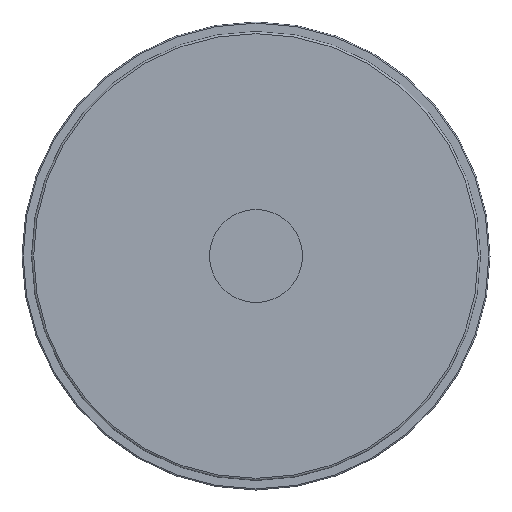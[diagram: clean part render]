
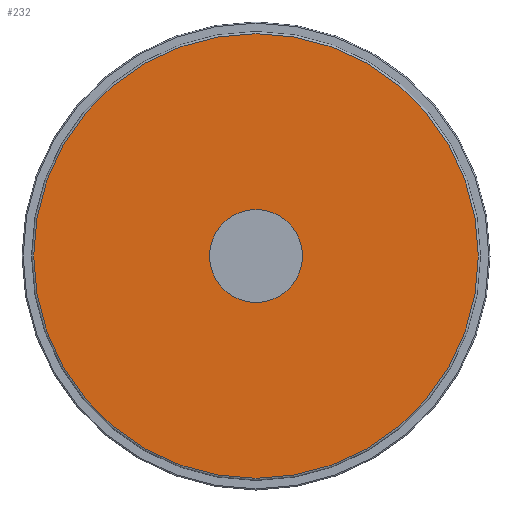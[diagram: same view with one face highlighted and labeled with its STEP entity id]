
A CAD part, left-side view. The second image highlights one B-rep face of the part: STEP entity #232.
In plain terms, the highlighted planar face has unit normal (-1, 0, 0).
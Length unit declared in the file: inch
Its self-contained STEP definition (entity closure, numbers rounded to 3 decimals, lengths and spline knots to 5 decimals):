
#46=FACE_BOUND('',#75,.T.);
#52=PLANE('',#281);
#62=FACE_OUTER_BOUND('',#74,.T.);
#74=EDGE_LOOP('',(#193,#194));
#75=EDGE_LOOP('',(#195));
#89=CIRCLE('',#258,0.6575);
#103=CIRCLE('',#277,3.1475);
#104=CIRCLE('',#278,3.1475);
#111=VERTEX_POINT('',#404);
#124=VERTEX_POINT('',#437);
#125=VERTEX_POINT('',#439);
#132=EDGE_CURVE('',#111,#111,#89,.T.);
#147=EDGE_CURVE('',#124,#125,#103,.T.);
#148=EDGE_CURVE('',#125,#124,#104,.T.);
#193=ORIENTED_EDGE('',*,*,#148,.F.);
#194=ORIENTED_EDGE('',*,*,#147,.F.);
#195=ORIENTED_EDGE('',*,*,#132,.T.);
#232=ADVANCED_FACE('',(#62,#46),#52,.T.);
#258=AXIS2_PLACEMENT_3D('',#406,#309,#310);
#277=AXIS2_PLACEMENT_3D('',#440,#348,#349);
#278=AXIS2_PLACEMENT_3D('',#441,#350,#351);
#281=AXIS2_PLACEMENT_3D('',#445,#357,#358);
#309=DIRECTION('center_axis',(1.,0.,0.));
#310=DIRECTION('ref_axis',(0.,0.,-1.));
#348=DIRECTION('center_axis',(1.,0.,0.));
#349=DIRECTION('ref_axis',(0.,-1.,0.));
#350=DIRECTION('center_axis',(1.,0.,0.));
#351=DIRECTION('ref_axis',(0.,-1.,0.));
#357=DIRECTION('center_axis',(-1.,0.,0.));
#358=DIRECTION('ref_axis',(0.,0.,1.));
#404=CARTESIAN_POINT('',(0.,0.,0.6575));
#406=CARTESIAN_POINT('Origin',(0.,0.,0.));
#437=CARTESIAN_POINT('',(0.,0.,3.1475));
#439=CARTESIAN_POINT('',(0.,3.1475,0.));
#440=CARTESIAN_POINT('Origin',(0.,0.,0.));
#441=CARTESIAN_POINT('Origin',(0.,0.,0.));
#445=CARTESIAN_POINT('Origin',(0.,3.1775,0.));
